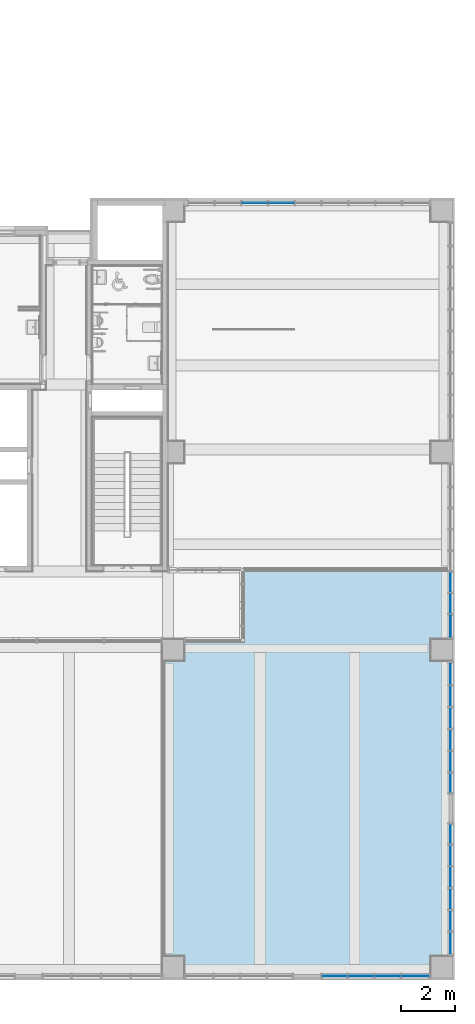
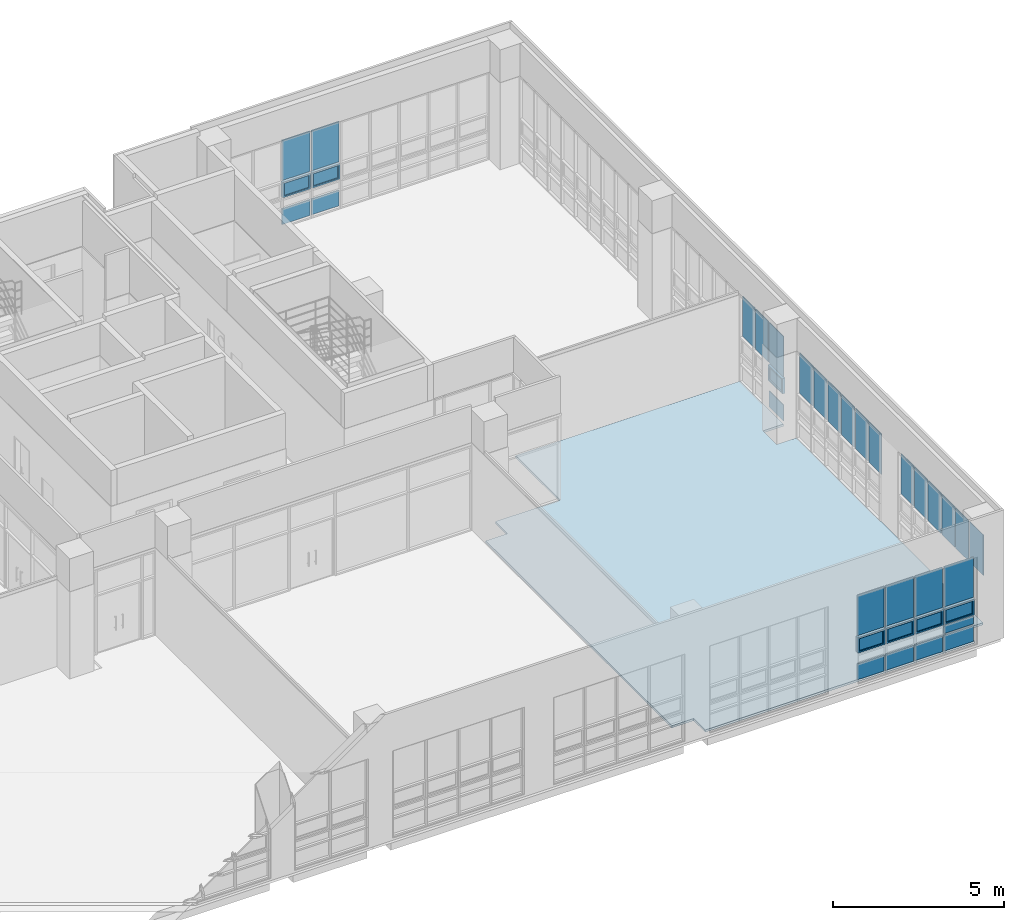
# One storey, part 36 of 74: 36 plates, 1 slab, 5 elements without a shape of their own.
"""IFC2X3 building model written with IfcOpenShell, lengths in millimetres."""

from ifc_helpers import new_model, entity, si_unit, converted_unit, derived_unit, direction, frame, origin, origin_2d_with_axis, place, context, subcontext, project, spatial, polyline, rectangle, outline, extrude, source, transform, mapped, material, material_list, layer, layer_set, layer_usage, type_object, type_shapes, element, aggregate, save


model = new_model("IFC2X3")

# Units and contexts
model_context = context("Model", 3, precision=0.01, world=origin(), true_north=direction((6.123031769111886e-17, 1.0)))
body_context = subcontext(model_context, "Body", "Model", "MODEL_VIEW")
ifc_project = project(units=[si_unit("LENGTHUNIT", "METRE", prefix="MILLI"), si_unit("AREAUNIT", "SQUARE_METRE"), si_unit("VOLUMEUNIT", "CUBIC_METRE"), converted_unit("PLANEANGLEUNIT", "DEGREE", entity("IfcRatioMeasure", 0.017453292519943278), si_unit("PLANEANGLEUNIT", "RADIAN"), dimensions=[0, 0, 0, 0, 0, 0, 0]), si_unit("MASSUNIT", "GRAM", prefix="KILO"), derived_unit("MASSDENSITYUNIT", [(si_unit("MASSUNIT", "GRAM", prefix="KILO"), 1), (si_unit("LENGTHUNIT", "METRE"), -3)]), derived_unit("MOMENTOFINERTIAUNIT", [(si_unit("LENGTHUNIT", "METRE"), 4)]), si_unit("TIMEUNIT", "SECOND"), si_unit("FREQUENCYUNIT", "HERTZ"), si_unit("THERMODYNAMICTEMPERATUREUNIT", "DEGREE_CELSIUS"), derived_unit("THERMALTRANSMITTANCEUNIT", [(si_unit("MASSUNIT", "GRAM", prefix="KILO"), 1), (si_unit("THERMODYNAMICTEMPERATUREUNIT", "KELVIN"), -1), (si_unit("TIMEUNIT", "SECOND"), -3)]), derived_unit("VOLUMETRICFLOWRATEUNIT", [(si_unit("LENGTHUNIT", "METRE"), 3), (si_unit("TIMEUNIT", "SECOND"), -1)]), derived_unit("MASSFLOWRATEUNIT", [(si_unit("MASSUNIT", "GRAM", prefix="KILO"), 1), (si_unit("TIMEUNIT", "SECOND"), -1)]), derived_unit("ROTATIONALFREQUENCYUNIT", [(si_unit("TIMEUNIT", "SECOND"), -1)]), si_unit("ELECTRICCURRENTUNIT", "AMPERE"), si_unit("ELECTRICVOLTAGEUNIT", "VOLT"), si_unit("POWERUNIT", "WATT"), si_unit("FORCEUNIT", "NEWTON", prefix="KILO"), si_unit("ILLUMINANCEUNIT", "LUX"), si_unit("LUMINOUSFLUXUNIT", "LUMEN"), si_unit("LUMINOUSINTENSITYUNIT", "CANDELA"), derived_unit("USERDEFINED", [(si_unit("MASSUNIT", "GRAM", prefix="KILO"), -1), (si_unit("LENGTHUNIT", "METRE"), -2), (si_unit("TIMEUNIT", "SECOND"), 3), (si_unit("LUMINOUSFLUXUNIT", "LUMEN"), 1)]), derived_unit("SOUNDPOWERUNIT", [(si_unit("MASSUNIT", "GRAM", prefix="KILO"), 1), (si_unit("LENGTHUNIT", "METRE"), 2), (si_unit("TIMEUNIT", "SECOND"), -3)]), derived_unit("SOUNDPRESSUREUNIT", [(si_unit("MASSUNIT", "GRAM", prefix="KILO"), 1), (si_unit("LENGTHUNIT", "METRE"), -1), (si_unit("TIMEUNIT", "SECOND"), -2)]), derived_unit("LINEARVELOCITYUNIT", [(si_unit("LENGTHUNIT", "METRE"), 1), (si_unit("TIMEUNIT", "SECOND"), -1)]), si_unit("PRESSUREUNIT", "PASCAL"), derived_unit("USERDEFINED", [(si_unit("LENGTHUNIT", "METRE"), -2), (si_unit("MASSUNIT", "GRAM", prefix="KILO"), 1), (si_unit("TIMEUNIT", "SECOND"), -2)]), derived_unit("LINEARFORCEUNIT", [(si_unit("MASSUNIT", "GRAM", prefix="KILO"), 1), (si_unit("LENGTHUNIT", "METRE"), 1), (si_unit("TIMEUNIT", "SECOND"), -2), (si_unit("LENGTHUNIT", "METRE"), -1)]), derived_unit("PLANARFORCEUNIT", [(si_unit("MASSUNIT", "GRAM", prefix="KILO"), 1), (si_unit("LENGTHUNIT", "METRE"), 1), (si_unit("TIMEUNIT", "SECOND"), -2), (si_unit("LENGTHUNIT", "METRE"), -2)])], contexts=[model_context])

# Site, building, storey
site_placement = place(None, frame((-14167.972527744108, -657.2125860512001, 0.0)))
site = spatial("IfcSite", under=ifc_project, at=site_placement, Name="Default", CompositionType="ELEMENT")
building_placement = place(site_placement, origin())
building = spatial("IfcBuilding", under=site, at=building_placement, Name="Sample Building", CompositionType="ELEMENT")
storey_placement = place(building_placement, frame((0.0, 0.0, 4800.0)))
storey = spatial("IfcBuildingStorey", under=building, at=storey_placement, Name="지상 2층", CompositionType="ELEMENT", Elevation=4800.000000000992)

# Curtain wall, plates
curtain_wall_type = type_object("IfcCurtainWallType", Name="커튼월:CW112-스테인리스 스틸 커튼월", PredefinedType="NOTDEFINED")
curtain_wall_1_placement = place(storey_placement, frame((0.0, 0.0, -4800.0)))
curtain_wall_1 = element("IfcCurtainWall", 1, at=curtain_wall_1_placement, inside=storey, type_object=curtain_wall_type, Name="커튼월:CW112-스테인리스 스틸 커튼월", ObjectType="커튼월:CW112-스테인리스 스틸 커튼월")
ifc_material_1 = material(Name="KBIMS-로이유리(코팅)")
plate_type_1 = type_object("IfcPlateType", Name="CW300-THK24.Low-e coating glass:CW300-THK24.Low-e coating glass", PredefinedType="CURTAIN_PANEL", material=ifc_material_1)
shared_shape_1 = source(origin(), body_context, "Body", "SweptSolid", [
    extrude(rectangle(XDim=731.2499999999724, YDim=24.000000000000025, at=origin_2d_with_axis()), frame((0.0, 0.0, 0.0), z_axis=(0.0, 0.0, 1.0), x_axis=(-1.0, 0.0, 0.0)), (0.0, 0.0, 1.0), 1445.0000000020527),
])
type_shapes(plate_type_1, [shared_shape_1])
plate_1_placement = place(curtain_wall_1_placement, frame((51405.46382893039, 14379.087275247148, 6505.0), z_axis=(0.0, 0.0, 1.0), x_axis=(0.0, 1.0, 0.0)))
plate_1 = element("IfcPlate", 2, at=plate_1_placement, type_object=plate_type_1, material=ifc_material_1, Name="CW300-THK24.Low-e coating glass:CW300-THK24.Low-e coating glass", ObjectType="CW300-THK24.Low-e coating glass:CW300-THK24.Low-e coating glass", context=body_context, shape_type="MappedRepresentation", body=[
    mapped(shared_shape_1, transform((0.0, 0.0, 0.0), scale=1.0)),
])
plate_2_placement = place(curtain_wall_1_placement, frame((51405.4638289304, 15160.337275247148, 6505.0), z_axis=(0.0, 0.0, 1.0), x_axis=(0.0, 1.0, 0.0)))
plate_2 = element("IfcPlate", 3, at=plate_2_placement, type_object=plate_type_1, material=ifc_material_1, Name="CW300-THK24.Low-e coating glass:CW300-THK24.Low-e coating glass", ObjectType="CW300-THK24.Low-e coating glass:CW300-THK24.Low-e coating glass", context=body_context, shape_type="MappedRepresentation", body=[
    mapped(shared_shape_1, transform((0.0, 0.0, 0.0), scale=1.0)),
])

curtain_wall_2_placement = place(storey_placement, frame((0.0, 0.0, -4800.0)))
curtain_wall_2 = element("IfcCurtainWall", 4, at=curtain_wall_2_placement, inside=storey, type_object=curtain_wall_type, Name="커튼월:CW112-스테인리스 스틸 커튼월", ObjectType="커튼월:CW112-스테인리스 스틸 커튼월")
plate_type_2 = type_object("IfcPlateType", Name="CW300-THK24.Low-e coating glass:CW300-THK24.Low-e coating glass", PredefinedType="CURTAIN_PANEL", material=ifc_material_1)
shared_shape_2 = source(origin(), body_context, "Body", "SweptSolid", [
    extrude(rectangle(XDim=937.4999999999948, YDim=24.000000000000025, at=origin_2d_with_axis()), frame((0.0, 0.0, 0.0), z_axis=(0.0, 0.0, 1.0), x_axis=(-1.0, 0.0, 0.0)), (0.0, 0.0, 1.0), 575.0000000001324),
])
type_shapes(plate_type_2, [shared_shape_2])
plate_3_placement = place(curtain_wall_2_placement, frame((48092.07230636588, 619.7122951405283, 4930.0)))
plate_3 = element("IfcPlate", 5, at=plate_3_placement, type_object=plate_type_2, material=ifc_material_1, Name="CW300-THK24.Low-e coating glass:CW300-THK24.Low-e coating glass", ObjectType="CW300-THK24.Low-e coating glass:CW300-THK24.Low-e coating glass", context=body_context, shape_type="MappedRepresentation", body=[
    mapped(shared_shape_2, transform((0.0, 0.0, 0.0), scale=1.0)),
])
plate_4_placement = place(curtain_wall_2_placement, frame((49079.57230636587, 619.7122951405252, 4930.0)))
plate_4 = element("IfcPlate", 6, at=plate_4_placement, type_object=plate_type_2, material=ifc_material_1, Name="CW300-THK24.Low-e coating glass:CW300-THK24.Low-e coating glass", ObjectType="CW300-THK24.Low-e coating glass:CW300-THK24.Low-e coating glass", context=body_context, shape_type="MappedRepresentation", body=[
    mapped(shared_shape_2, transform((0.0, 0.0, 0.0), scale=1.0)),
])
plate_type_3 = type_object("IfcPlateType", Name="CW300-THK24.Low-e coating glass:CW300-THK24.Low-e coating glass", PredefinedType="CURTAIN_PANEL", material=ifc_material_1)
shared_shape_3 = source(origin(), body_context, "Body", "SweptSolid", [
    extrude(rectangle(XDim=912.5000000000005, YDim=24.000000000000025, at=origin_2d_with_axis()), frame((0.0, 0.0, 0.0), z_axis=(0.0, 0.0, 1.0), x_axis=(-1.0, 0.0, 0.0)), (0.0, 0.0, 1.0), 575.0000000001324),
])
type_shapes(plate_type_3, [shared_shape_3])
plate_5_placement = place(curtain_wall_2_placement, frame((47117.07230636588, 619.7122951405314, 4930.0)))
plate_5 = element("IfcPlate", 7, at=plate_5_placement, type_object=plate_type_3, material=ifc_material_1, Name="CW300-THK24.Low-e coating glass:CW300-THK24.Low-e coating glass", ObjectType="CW300-THK24.Low-e coating glass:CW300-THK24.Low-e coating glass", context=body_context, shape_type="MappedRepresentation", body=[
    mapped(shared_shape_3, transform((0.0, 0.0, 0.0), scale=1.0)),
])
ifc_material_2 = material(Name="KBIMS-유리")
ifc_material_3 = material(Name="KBIMS-알루미늄")
ifc_material_list_1 = material_list([ifc_material_2, ifc_material_3])
ifc_material_list_2 = material_list([ifc_material_2, ifc_material_3])
plate_type_4 = type_object("IfcPlateType", Name="CW410-프로젝트 창:CW410-프로젝트 창 (하부개폐)", PredefinedType="CURTAIN_PANEL", material=ifc_material_list_2)
shared_shape_4 = source(origin(), body_context, "Body", "SweptSolid", [
    extrude(rectangle(XDim=837.5000000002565, YDim=23.999999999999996, at=origin_2d_with_axis()), frame((0.0, -0.04999999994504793, 50.0), z_axis=(0.0, 0.0, 1.0), x_axis=(-1.0, 0.0, 0.0)), (0.0, 0.0, 1.0), 450.00000000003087),
    extrude(outline(polyline([(-468.7499999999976, -275.0), (468.7499999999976, -275.0), (468.7499999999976, 275.0), (-468.7499999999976, 275.0), (-468.7499999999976, -275.0)]), holes=[polyline([(-418.75000000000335, -225.0), (-418.7500000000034, 225.0), (418.7500000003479, 225.0), (418.75000000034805, -225.0), (-418.75000000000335, -225.0)])]), frame((0.0, -50.04999999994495, 275.0), z_axis=(0.0, 1.0, 0.0), x_axis=(1.0, 0.0, 0.0)), (0.0, 0.0, 1.0), 99.99999999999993),
])
type_shapes(plate_type_4, [shared_shape_4])
plate_6_placement = place(curtain_wall_2_placement, frame((48092.07230636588, 619.7122951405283, 5905.0)))
plate_6 = element("IfcPlate", 8, at=plate_6_placement, type_object=plate_type_4, material=ifc_material_list_1, Name="CW410-프로젝트 창:CW410-프로젝트 창 (하부개폐)", ObjectType="CW410-프로젝트 창:CW410-프로젝트 창 (하부개폐)", context=body_context, shape_type="MappedRepresentation", body=[
    mapped(shared_shape_4, transform((0.0, 0.0, 0.0), scale=1.0)),
])
ifc_material_list_3 = material_list([ifc_material_2, ifc_material_3])
plate_7_placement = place(curtain_wall_2_placement, frame((49079.57230636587, 619.7122951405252, 5905.0)))
plate_7 = element("IfcPlate", 9, at=plate_7_placement, type_object=plate_type_4, material=ifc_material_list_3, Name="CW410-프로젝트 창:CW410-프로젝트 창 (하부개폐)", ObjectType="CW410-프로젝트 창:CW410-프로젝트 창 (하부개폐)", context=body_context, shape_type="MappedRepresentation", body=[
    mapped(shared_shape_4, transform((0.0, 0.0, 0.0), scale=1.0)),
])
ifc_material_list_4 = material_list([ifc_material_2, ifc_material_3])
ifc_material_list_5 = material_list([ifc_material_2, ifc_material_3])
plate_type_5 = type_object("IfcPlateType", Name="CW410-프로젝트 창:CW410-프로젝트 창 (하부개폐)", PredefinedType="CURTAIN_PANEL", material=ifc_material_list_5)
shared_shape_5 = source(origin(), body_context, "Body", "SweptSolid", [
    extrude(rectangle(XDim=812.5000000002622, YDim=23.999999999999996, at=origin_2d_with_axis()), frame((0.0, -0.04999999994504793, 50.0), z_axis=(0.0, 0.0, 1.0), x_axis=(-1.0, 0.0, 0.0)), (0.0, 0.0, 1.0), 450.00000000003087),
    extrude(outline(polyline([(-456.25000000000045, -275.0), (456.25000000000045, -275.0), (456.25000000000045, 275.0), (-456.25000000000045, 275.0), (-456.25000000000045, -275.0)]), holes=[polyline([(-406.2500000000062, -225.0), (-406.25000000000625, 225.0), (406.2500000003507, 225.0), (406.2500000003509, -225.0), (-406.2500000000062, -225.0)])]), frame((0.0, -50.04999999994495, 275.0), z_axis=(0.0, 1.0, 0.0), x_axis=(1.0, 0.0, 0.0)), (0.0, 0.0, 1.0), 99.99999999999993),
])
type_shapes(plate_type_5, [shared_shape_5])
plate_8_placement = place(curtain_wall_2_placement, frame((47117.07230636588, 619.7122951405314, 5905.0)))
plate_8 = element("IfcPlate", 10, at=plate_8_placement, type_object=plate_type_5, material=ifc_material_list_4, Name="CW410-프로젝트 창:CW410-프로젝트 창 (하부개폐)", ObjectType="CW410-프로젝트 창:CW410-프로젝트 창 (하부개폐)", context=body_context, shape_type="MappedRepresentation", body=[
    mapped(shared_shape_5, transform((0.0, 0.0, 0.0), scale=1.0)),
])
plate_type_6 = type_object("IfcPlateType", Name="CW300-THK24.Low-e coating glass:CW300-THK24.Low-e coating glass", PredefinedType="CURTAIN_PANEL", material=ifc_material_1)
shared_shape_6 = source(origin(), body_context, "Body", "SweptSolid", [
    extrude(rectangle(XDim=937.4999999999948, YDim=24.000000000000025, at=origin_2d_with_axis()), frame((0.0, 0.0, 0.0), z_axis=(0.0, 0.0, 1.0), x_axis=(-1.0, 0.0, 0.0)), (0.0, 0.0, 1.0), 1445.0000000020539),
])
type_shapes(plate_type_6, [shared_shape_6])
plate_9_placement = place(curtain_wall_2_placement, frame((48092.07230636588, 619.7122951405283, 6505.0)))
plate_9 = element("IfcPlate", 11, at=plate_9_placement, type_object=plate_type_6, material=ifc_material_1, Name="CW300-THK24.Low-e coating glass:CW300-THK24.Low-e coating glass", ObjectType="CW300-THK24.Low-e coating glass:CW300-THK24.Low-e coating glass", context=body_context, shape_type="MappedRepresentation", body=[
    mapped(shared_shape_6, transform((0.0, 0.0, 0.0), scale=1.0)),
])
plate_10_placement = place(curtain_wall_2_placement, frame((49079.57230636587, 619.7122951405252, 6505.0)))
plate_10 = element("IfcPlate", 12, at=plate_10_placement, type_object=plate_type_6, material=ifc_material_1, Name="CW300-THK24.Low-e coating glass:CW300-THK24.Low-e coating glass", ObjectType="CW300-THK24.Low-e coating glass:CW300-THK24.Low-e coating glass", context=body_context, shape_type="MappedRepresentation", body=[
    mapped(shared_shape_6, transform((0.0, 0.0, 0.0), scale=1.0)),
])
plate_type_7 = type_object("IfcPlateType", Name="CW300-THK24.Low-e coating glass:CW300-THK24.Low-e coating glass", PredefinedType="CURTAIN_PANEL", material=ifc_material_1)
shared_shape_7 = source(origin(), body_context, "Body", "SweptSolid", [
    extrude(rectangle(XDim=912.5000000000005, YDim=24.000000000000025, at=origin_2d_with_axis()), frame((0.0, 0.0, 0.0), z_axis=(0.0, 0.0, 1.0), x_axis=(-1.0, 0.0, 0.0)), (0.0, 0.0, 1.0), 1445.0000000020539),
])
type_shapes(plate_type_7, [shared_shape_7])
plate_11_placement = place(curtain_wall_2_placement, frame((47117.07230636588, 619.7122951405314, 6505.0)))
plate_11 = element("IfcPlate", 13, at=plate_11_placement, type_object=plate_type_7, material=ifc_material_1, Name="CW300-THK24.Low-e coating glass:CW300-THK24.Low-e coating glass", ObjectType="CW300-THK24.Low-e coating glass:CW300-THK24.Low-e coating glass", context=body_context, shape_type="MappedRepresentation", body=[
    mapped(shared_shape_7, transform((0.0, 0.0, 0.0), scale=1.0)),
])
plate_type_8 = type_object("IfcPlateType", Name="CW300-THK24.Low-e coating glass:CW300-THK24.Low-e coating glass", PredefinedType="CURTAIN_PANEL", material=ifc_material_1)
shared_shape_8 = source(origin(), body_context, "Body", "SweptSolid", [
    extrude(rectangle(XDim=1001.6588810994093, YDim=24.000000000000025, at=origin_2d_with_axis()), frame((0.0, 0.0, 0.0), z_axis=(0.0, 0.0, 1.0), x_axis=(-1.0, 0.0, 0.0)), (0.0, 0.0, 1.0), 575.0000000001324),
])
type_shapes(plate_type_8, [shared_shape_8])
plate_12_placement = place(curtain_wall_2_placement, frame((50099.15174691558, 619.7122951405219, 4930.0)))
plate_12 = element("IfcPlate", 14, at=plate_12_placement, type_object=plate_type_8, material=ifc_material_1, Name="CW300-THK24.Low-e coating glass:CW300-THK24.Low-e coating glass", ObjectType="CW300-THK24.Low-e coating glass:CW300-THK24.Low-e coating glass", context=body_context, shape_type="MappedRepresentation", body=[
    mapped(shared_shape_8, transform((0.0, 0.0, 0.0), scale=1.0)),
])
plate_type_9 = type_object("IfcPlateType", Name="CW300-THK24.Low-e coating glass:CW300-THK24.Low-e coating glass", PredefinedType="CURTAIN_PANEL", material=ifc_material_1)
shared_shape_9 = source(origin(), body_context, "Body", "SweptSolid", [
    extrude(rectangle(XDim=1001.6588810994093, YDim=24.000000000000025, at=origin_2d_with_axis()), frame((0.0, 0.0, 0.0), z_axis=(0.0, 0.0, 1.0), x_axis=(-1.0, 0.0, 0.0)), (0.0, 0.0, 1.0), 299.9999999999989),
])
type_shapes(plate_type_9, [shared_shape_9])
plate_13_placement = place(curtain_wall_2_placement, frame((50099.15174691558, 619.7122951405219, 5555.0)))
plate_13 = element("IfcPlate", 15, at=plate_13_placement, type_object=plate_type_9, material=ifc_material_1, Name="CW300-THK24.Low-e coating glass:CW300-THK24.Low-e coating glass", ObjectType="CW300-THK24.Low-e coating glass:CW300-THK24.Low-e coating glass", context=body_context, shape_type="MappedRepresentation", body=[
    mapped(shared_shape_9, transform((0.0, 0.0, 0.0), scale=1.0)),
])
ifc_material_list_6 = material_list([ifc_material_2, ifc_material_3])
ifc_material_list_7 = material_list([ifc_material_2, ifc_material_3])
plate_type_10 = type_object("IfcPlateType", Name="CW410-프로젝트 창:CW410-프로젝트 창 (하부개폐)", PredefinedType="CURTAIN_PANEL", material=ifc_material_list_7)
shared_shape_10 = source(origin(), body_context, "Body", "SweptSolid", [
    extrude(rectangle(XDim=901.658881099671, YDim=23.999999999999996, at=origin_2d_with_axis()), frame((0.0, -0.04999999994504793, 50.0), z_axis=(0.0, 0.0, 1.0), x_axis=(-1.0, 0.0, 0.0)), (0.0, 0.0, 1.0), 450.0000000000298),
    extrude(outline(polyline([(-500.8294405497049, -275.0), (500.8294405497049, -275.0), (500.8294405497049, 275.0), (-500.8294405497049, 275.0), (-500.8294405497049, -275.0)]), holes=[polyline([(-450.8294405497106, -225.0), (-450.8294405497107, 225.0), (450.8294405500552, 225.0), (450.8294405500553, -225.0), (-450.8294405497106, -225.0)])]), frame((0.0, -50.04999999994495, 275.0), z_axis=(0.0, 1.0, 0.0), x_axis=(1.0, 0.0, 0.0)), (0.0, 0.0, 1.0), 99.99999999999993),
])
type_shapes(plate_type_10, [shared_shape_10])
plate_14_placement = place(curtain_wall_2_placement, frame((50099.15174691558, 619.7122951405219, 5905.0)))
plate_14 = element("IfcPlate", 16, at=plate_14_placement, type_object=plate_type_10, material=ifc_material_list_6, Name="CW410-프로젝트 창:CW410-프로젝트 창 (하부개폐)", ObjectType="CW410-프로젝트 창:CW410-프로젝트 창 (하부개폐)", context=body_context, shape_type="MappedRepresentation", body=[
    mapped(shared_shape_10, transform((0.0, 0.0, 0.0), scale=1.0)),
])
plate_type_11 = type_object("IfcPlateType", Name="CW300-THK24.Low-e coating glass:CW300-THK24.Low-e coating glass", PredefinedType="CURTAIN_PANEL", material=ifc_material_1)
shared_shape_11 = source(origin(), body_context, "Body", "SweptSolid", [
    extrude(rectangle(XDim=1001.6588810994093, YDim=24.000000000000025, at=origin_2d_with_axis()), frame((0.0, 0.0, 0.0), z_axis=(0.0, 0.0, 1.0), x_axis=(-1.0, 0.0, 0.0)), (0.0, 0.0, 1.0), 1445.0000000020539),
])
type_shapes(plate_type_11, [shared_shape_11])
plate_15_placement = place(curtain_wall_2_placement, frame((50099.15174691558, 619.7122951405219, 6505.0)))
plate_15 = element("IfcPlate", 17, at=plate_15_placement, type_object=plate_type_11, material=ifc_material_1, Name="CW300-THK24.Low-e coating glass:CW300-THK24.Low-e coating glass", ObjectType="CW300-THK24.Low-e coating glass:CW300-THK24.Low-e coating glass", context=body_context, shape_type="MappedRepresentation", body=[
    mapped(shared_shape_11, transform((0.0, 0.0, 0.0), scale=1.0)),
])
aggregate(curtain_wall_2, [plate_5, plate_3, plate_4, plate_12, plate_13, plate_8, plate_6, plate_7, plate_14, plate_11, plate_9, plate_10, plate_15])

curtain_wall_3_placement = place(storey_placement, frame((0.0, 0.0, -4800.0)))
curtain_wall_3 = element("IfcCurtainWall", 18, at=curtain_wall_3_placement, inside=storey, type_object=curtain_wall_type, Name="커튼월:CW112-스테인리스 스틸 커튼월", ObjectType="커튼월:CW112-스테인리스 스틸 커튼월")
plate_type_12 = type_object("IfcPlateType", Name="CW300-THK24.Low-e coating glass:CW300-THK24.Low-e coating glass", PredefinedType="CURTAIN_PANEL", material=ifc_material_1)
shared_shape_12 = source(origin(), body_context, "Body", "SweptSolid", [
    extrude(rectangle(XDim=811.1669447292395, YDim=24.000000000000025, at=origin_2d_with_axis()), frame((0.0, 0.0, 0.0), z_axis=(0.0, 0.0, 1.0), x_axis=(-1.0, 0.0, 0.0)), (0.0, 0.0, 1.0), 1445.0000000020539),
])
type_shapes(plate_type_12, [shared_shape_12])
plate_16_placement = place(curtain_wall_3_placement, frame((51405.46382893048, 1830.7957803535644, 6505.0), z_axis=(0.0, 0.0, 1.0), x_axis=(0.0, 1.0, 0.0)))
plate_16 = element("IfcPlate", 19, at=plate_16_placement, type_object=plate_type_12, material=ifc_material_1, Name="CW300-THK24.Low-e coating glass:CW300-THK24.Low-e coating glass", ObjectType="CW300-THK24.Low-e coating glass:CW300-THK24.Low-e coating glass", context=body_context, shape_type="MappedRepresentation", body=[
    mapped(shared_shape_12, transform((0.0, 0.0, 0.0), scale=1.0)),
])
plate_type_13 = type_object("IfcPlateType", Name="CW300-THK24.Low-e coating glass:CW300-THK24.Low-e coating glass", PredefinedType="CURTAIN_PANEL", material=ifc_material_1)
shared_shape_13 = source(origin(), body_context, "Body", "SweptSolid", [
    extrude(rectangle(XDim=754.1666666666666, YDim=24.000000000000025, at=origin_2d_with_axis()), frame((0.0, 0.0, 0.0), z_axis=(0.0, 0.0, 1.0), x_axis=(-1.0, 0.0, 0.0)), (0.0, 0.0, 1.0), 1445.0000000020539),
])
type_shapes(plate_type_13, [shared_shape_13])
plate_17_placement = place(curtain_wall_3_placement, frame((51405.46382893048, 2663.462586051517, 6505.0), z_axis=(0.0, 0.0, 1.0), x_axis=(0.0, 1.0, 0.0)))
plate_17 = element("IfcPlate", 20, at=plate_17_placement, type_object=plate_type_13, material=ifc_material_1, Name="CW300-THK24.Low-e coating glass:CW300-THK24.Low-e coating glass", ObjectType="CW300-THK24.Low-e coating glass:CW300-THK24.Low-e coating glass", context=body_context, shape_type="MappedRepresentation", body=[
    mapped(shared_shape_13, transform((0.0, 0.0, 0.0), scale=1.0)),
])
plate_18_placement = place(curtain_wall_3_placement, frame((51405.46382893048, 3467.629252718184, 6505.0), z_axis=(0.0, 0.0, 1.0), x_axis=(0.0, 1.0, 0.0)))
plate_18 = element("IfcPlate", 21, at=plate_18_placement, type_object=plate_type_13, material=ifc_material_1, Name="CW300-THK24.Low-e coating glass:CW300-THK24.Low-e coating glass", ObjectType="CW300-THK24.Low-e coating glass:CW300-THK24.Low-e coating glass", context=body_context, shape_type="MappedRepresentation", body=[
    mapped(shared_shape_13, transform((0.0, 0.0, 0.0), scale=1.0)),
])
plate_19_placement = place(curtain_wall_3_placement, frame((51405.463828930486, 4271.795919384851, 6505.0), z_axis=(0.0, 0.0, 1.0), x_axis=(0.0, 1.0, 0.0)))
plate_19 = element("IfcPlate", 22, at=plate_19_placement, type_object=plate_type_13, material=ifc_material_1, Name="CW300-THK24.Low-e coating glass:CW300-THK24.Low-e coating glass", ObjectType="CW300-THK24.Low-e coating glass:CW300-THK24.Low-e coating glass", context=body_context, shape_type="MappedRepresentation", body=[
    mapped(shared_shape_13, transform((0.0, 0.0, 0.0), scale=1.0)),
])
plate_20_placement = place(curtain_wall_3_placement, frame((51405.463828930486, 5075.962586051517, 6505.0), z_axis=(0.0, 0.0, 1.0), x_axis=(0.0, 1.0, 0.0)))
plate_20 = element("IfcPlate", 23, at=plate_20_placement, type_object=plate_type_13, material=ifc_material_1, Name="CW300-THK24.Low-e coating glass:CW300-THK24.Low-e coating glass", ObjectType="CW300-THK24.Low-e coating glass:CW300-THK24.Low-e coating glass", context=body_context, shape_type="MappedRepresentation", body=[
    mapped(shared_shape_13, transform((0.0, 0.0, 0.0), scale=1.0)),
])

curtain_wall_4_placement = place(storey_placement, frame((0.0, 0.0, -4800.0)))
curtain_wall_4 = element("IfcCurtainWall", 24, at=curtain_wall_4_placement, inside=storey, type_object=curtain_wall_type, Name="커튼월:CW112-스테인리스 스틸 커튼월", ObjectType="커튼월:CW112-스테인리스 스틸 커튼월")
plate_21_placement = place(curtain_wall_4_placement, frame((51405.46382893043, 8538.462586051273, 6505.0), z_axis=(0.0, 0.0, 1.0), x_axis=(0.0, 1.0, 0.0)))
plate_21 = element("IfcPlate", 25, at=plate_21_placement, type_object=plate_type_13, material=ifc_material_1, Name="CW300-THK24.Low-e coating glass:CW300-THK24.Low-e coating glass", ObjectType="CW300-THK24.Low-e coating glass:CW300-THK24.Low-e coating glass", context=body_context, shape_type="MappedRepresentation", body=[
    mapped(shared_shape_13, transform((0.0, 0.0, 0.0), scale=1.0)),
])
plate_22_placement = place(curtain_wall_4_placement, frame((51405.46382893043, 9342.62925271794, 6505.0), z_axis=(0.0, 0.0, 1.0), x_axis=(0.0, 1.0, 0.0)))
plate_22 = element("IfcPlate", 26, at=plate_22_placement, type_object=plate_type_13, material=ifc_material_1, Name="CW300-THK24.Low-e coating glass:CW300-THK24.Low-e coating glass", ObjectType="CW300-THK24.Low-e coating glass:CW300-THK24.Low-e coating glass", context=body_context, shape_type="MappedRepresentation", body=[
    mapped(shared_shape_13, transform((0.0, 0.0, 0.0), scale=1.0)),
])
plate_23_placement = place(curtain_wall_4_placement, frame((51405.463828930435, 10146.795919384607, 6505.0), z_axis=(0.0, 0.0, 1.0), x_axis=(0.0, 1.0, 0.0)))
plate_23 = element("IfcPlate", 27, at=plate_23_placement, type_object=plate_type_13, material=ifc_material_1, Name="CW300-THK24.Low-e coating glass:CW300-THK24.Low-e coating glass", ObjectType="CW300-THK24.Low-e coating glass:CW300-THK24.Low-e coating glass", context=body_context, shape_type="MappedRepresentation", body=[
    mapped(shared_shape_13, transform((0.0, 0.0, 0.0), scale=1.0)),
])
plate_24_placement = place(curtain_wall_4_placement, frame((51405.463828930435, 10950.962586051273, 6505.0), z_axis=(0.0, 0.0, 1.0), x_axis=(0.0, 1.0, 0.0)))
plate_24 = element("IfcPlate", 28, at=plate_24_placement, type_object=plate_type_13, material=ifc_material_1, Name="CW300-THK24.Low-e coating glass:CW300-THK24.Low-e coating glass", ObjectType="CW300-THK24.Low-e coating glass:CW300-THK24.Low-e coating glass", context=body_context, shape_type="MappedRepresentation", body=[
    mapped(shared_shape_13, transform((0.0, 0.0, 0.0), scale=1.0)),
])

# Plate
plate_type_14 = type_object("IfcPlateType", Name="CW300-THK24.Low-e coating glass:CW300-THK24.Low-e coating glass", PredefinedType="CURTAIN_PANEL", material=ifc_material_1)
shared_shape_14 = source(origin(), body_context, "Body", "SweptSolid", [
    extrude(rectangle(XDim=729.1666666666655, YDim=24.000000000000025, at=origin_2d_with_axis()), frame((0.0, 0.0, 0.0), z_axis=(0.0, 0.0, 1.0), x_axis=(-1.0, 0.0, 0.0)), (0.0, 0.0, 1.0), 1445.0000000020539),
])
type_shapes(plate_type_14, [shared_shape_14])
plate_25_placement = place(curtain_wall_3_placement, frame((51405.463828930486, 5867.629252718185, 6505.0), z_axis=(0.0, 0.0, 1.0), x_axis=(0.0, 1.0, 0.0)))
plate_25 = element("IfcPlate", 29, at=plate_25_placement, type_object=plate_type_14, material=ifc_material_1, Name="CW300-THK24.Low-e coating glass:CW300-THK24.Low-e coating glass", ObjectType="CW300-THK24.Low-e coating glass:CW300-THK24.Low-e coating glass", context=body_context, shape_type="MappedRepresentation", body=[
    mapped(shared_shape_14, transform((0.0, 0.0, 0.0), scale=1.0)),
])

aggregate(curtain_wall_3, [plate_16, plate_17, plate_18, plate_19, plate_20, plate_25])

plate_26_placement = place(curtain_wall_4_placement, frame((51405.46382893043, 7746.795919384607, 6505.0), z_axis=(0.0, 0.0, 1.0), x_axis=(0.0, 1.0, 0.0)))
plate_26 = element("IfcPlate", 30, at=plate_26_placement, type_object=plate_type_14, material=ifc_material_1, Name="CW300-THK24.Low-e coating glass:CW300-THK24.Low-e coating glass", ObjectType="CW300-THK24.Low-e coating glass:CW300-THK24.Low-e coating glass", context=body_context, shape_type="MappedRepresentation", body=[
    mapped(shared_shape_14, transform((0.0, 0.0, 0.0), scale=1.0)),
])

plate_type_15 = type_object("IfcPlateType", Name="CW300-THK24.Low-e coating glass:CW300-THK24.Low-e coating glass", PredefinedType="CURTAIN_PANEL", material=ifc_material_1)
shared_shape_15 = source(origin(), body_context, "Body", "SweptSolid", [
    extrude(rectangle(XDim=811.1668105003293, YDim=24.000000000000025, at=origin_2d_with_axis()), frame((0.0, 0.0, 0.0), z_axis=(0.0, 0.0, 1.0), x_axis=(-1.0, 0.0, 0.0)), (0.0, 0.0, 1.0), 1445.0000000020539),
])
type_shapes(plate_type_15, [shared_shape_15])
plate_27_placement = place(curtain_wall_4_placement, frame((51405.463828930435, 11783.629324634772, 6505.0), z_axis=(0.0, 0.0, 1.0), x_axis=(0.0, 1.0, 0.0)))
plate_27 = element("IfcPlate", 31, at=plate_27_placement, type_object=plate_type_15, material=ifc_material_1, Name="CW300-THK24.Low-e coating glass:CW300-THK24.Low-e coating glass", ObjectType="CW300-THK24.Low-e coating glass:CW300-THK24.Low-e coating glass", context=body_context, shape_type="MappedRepresentation", body=[
    mapped(shared_shape_15, transform((0.0, 0.0, 0.0), scale=1.0)),
])

aggregate(curtain_wall_4, [plate_26, plate_21, plate_22, plate_23, plate_24, plate_27])

plate_type_16 = type_object("IfcPlateType", Name="CW300-THK24.Low-e coating glass:CW300-THK24.Low-e coating glass", PredefinedType="CURTAIN_PANEL", material=ifc_material_1)
shared_shape_16 = source(origin(), body_context, "Body", "SweptSolid", [
    extrude(rectangle(XDim=838.2495453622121, YDim=24.000000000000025, at=origin_2d_with_axis()), frame((0.0, 0.0, 0.0), z_axis=(0.0, 0.0, 1.0), x_axis=(-1.0, 0.0, 0.0)), (0.0, 0.0, 1.0), 575.0000000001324),
])
type_shapes(plate_type_16, [shared_shape_16])
plate_28_placement = place(curtain_wall_1_placement, frame((51405.46382893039, 13544.33750256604, 4930.0), z_axis=(0.0, 0.0, 1.0), x_axis=(0.0, 1.0, 0.0)))
plate_28 = element("IfcPlate", 32, at=plate_28_placement, type_object=plate_type_16, material=ifc_material_1, Name="CW300-THK24.Low-e coating glass:CW300-THK24.Low-e coating glass", ObjectType="CW300-THK24.Low-e coating glass:CW300-THK24.Low-e coating glass", context=body_context, shape_type="MappedRepresentation", body=[
    mapped(shared_shape_16, transform((0.0, 0.0, 0.0), scale=1.0)),
])

ifc_material_list_8 = material_list([ifc_material_2, ifc_material_3])
ifc_material_list_9 = material_list([ifc_material_2, ifc_material_3])
plate_type_17 = type_object("IfcPlateType", Name="CW410-프로젝트 창:CW410-프로젝트 창 (하부개폐)", PredefinedType="CURTAIN_PANEL", material=ifc_material_list_9)
shared_shape_17 = source(origin(), body_context, "Body", "SweptSolid", [
    extrude(rectangle(XDim=738.2495453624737, YDim=23.999999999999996, at=origin_2d_with_axis()), frame((0.0, -0.04999999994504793, 50.0), z_axis=(0.0, 0.0, 1.0), x_axis=(-1.0, 0.0, 0.0)), (0.0, 0.0, 1.0), 450.00000000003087),
    extrude(outline(polyline([(-419.12477268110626, -275.0), (419.12477268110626, -275.0), (419.12477268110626, 275.0), (-419.12477268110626, 275.0), (-419.12477268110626, -275.0)]), holes=[polyline([(-369.124772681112, -225.0), (-369.12477268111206, 225.0), (369.12477268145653, 225.0), (369.1247726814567, -225.0), (-369.124772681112, -225.0)])]), frame((0.0, -50.04999999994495, 275.0), z_axis=(0.0, 1.0, 0.0), x_axis=(1.0, 0.0, 0.0)), (0.0, 0.0, 1.0), 99.99999999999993),
])
type_shapes(plate_type_17, [shared_shape_17])
plate_29_placement = place(curtain_wall_1_placement, frame((51405.46382893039, 13544.33750256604, 5905.0), z_axis=(0.0, 0.0, 1.0), x_axis=(0.0, 1.0, 0.0)))
plate_29 = element("IfcPlate", 33, at=plate_29_placement, type_object=plate_type_17, material=ifc_material_list_8, Name="CW410-프로젝트 창:CW410-프로젝트 창 (하부개폐)", ObjectType="CW410-프로젝트 창:CW410-프로젝트 창 (하부개폐)", context=body_context, shape_type="MappedRepresentation", body=[
    mapped(shared_shape_17, transform((0.0, 0.0, 0.0), scale=1.0)),
])

plate_type_18 = type_object("IfcPlateType", Name="CW300-THK24.Low-e coating glass:CW300-THK24.Low-e coating glass", PredefinedType="CURTAIN_PANEL", material=ifc_material_1)
shared_shape_18 = source(origin(), body_context, "Body", "SweptSolid", [
    extrude(rectangle(XDim=838.2495453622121, YDim=24.000000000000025, at=origin_2d_with_axis()), frame((0.0, 0.0, 0.0), z_axis=(0.0, 0.0, 1.0), x_axis=(-1.0, 0.0, 0.0)), (0.0, 0.0, 1.0), 1445.0000000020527),
])
type_shapes(plate_type_18, [shared_shape_18])
plate_30_placement = place(curtain_wall_1_placement, frame((51405.46382893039, 13544.33750256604, 6505.0), z_axis=(0.0, 0.0, 1.0), x_axis=(0.0, 1.0, 0.0)))
plate_30 = element("IfcPlate", 34, at=plate_30_placement, type_object=plate_type_18, material=ifc_material_1, Name="CW300-THK24.Low-e coating glass:CW300-THK24.Low-e coating glass", ObjectType="CW300-THK24.Low-e coating glass:CW300-THK24.Low-e coating glass", context=body_context, shape_type="MappedRepresentation", body=[
    mapped(shared_shape_18, transform((0.0, 0.0, 0.0), scale=1.0)),
])

aggregate(curtain_wall_1, [plate_28, plate_29, plate_30, plate_1, plate_2])

# Curtain wall, plates
curtain_wall_5_placement = place(storey_placement, frame((0.0, 0.0, -4800.0)))
curtain_wall_5 = element("IfcCurtainWall", 35, at=curtain_wall_5_placement, inside=storey, type_object=curtain_wall_type, Name="커튼월:CW112-스테인리스 스틸 커튼월", ObjectType="커튼월:CW112-스테인리스 스틸 커튼월")
plate_type_19 = type_object("IfcPlateType", Name="CW300-THK24.Low-e coating glass:CW300-THK24.Low-e coating glass", PredefinedType="CURTAIN_PANEL", material=ifc_material_1)
shared_shape_19 = source(origin(), body_context, "Body", "SweptSolid", [
    extrude(rectangle(XDim=938.8888888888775, YDim=24.000000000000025, at=origin_2d_with_axis()), frame((0.0, 0.0, 0.0), z_axis=(0.0, 0.0, 1.0), x_axis=(-1.0, 0.0, 0.0)), (0.0, 0.0, 1.0), 575.0000000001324),
])
type_shapes(plate_type_19, [shared_shape_19])
plate_31_placement = place(curtain_wall_5_placement, frame((45158.657769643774, 29157.212295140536, 4930.0), z_axis=(0.0, 0.0, 1.0), x_axis=(-1.0, 0.0, 0.0)))
plate_31 = element("IfcPlate", 36, at=plate_31_placement, type_object=plate_type_19, material=ifc_material_1, Name="CW300-THK24.Low-e coating glass:CW300-THK24.Low-e coating glass", ObjectType="CW300-THK24.Low-e coating glass:CW300-THK24.Low-e coating glass", context=body_context, shape_type="MappedRepresentation", body=[
    mapped(shared_shape_19, transform((0.0, 0.0, 0.0), scale=1.0)),
])
plate_32_placement = place(curtain_wall_5_placement, frame((44169.76888075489, 29157.212295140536, 4930.0), z_axis=(0.0, 0.0, 1.0), x_axis=(-1.0, 0.0, 0.0)))
plate_32 = element("IfcPlate", 37, at=plate_32_placement, type_object=plate_type_19, material=ifc_material_1, Name="CW300-THK24.Low-e coating glass:CW300-THK24.Low-e coating glass", ObjectType="CW300-THK24.Low-e coating glass:CW300-THK24.Low-e coating glass", context=body_context, shape_type="MappedRepresentation", body=[
    mapped(shared_shape_19, transform((0.0, 0.0, 0.0), scale=1.0)),
])
ifc_material_list_10 = material_list([ifc_material_2, ifc_material_3])
ifc_material_list_11 = material_list([ifc_material_2, ifc_material_3])
plate_type_20 = type_object("IfcPlateType", Name="CW410-프로젝트 창:CW410-프로젝트 창 (하부개폐)", PredefinedType="CURTAIN_PANEL", material=ifc_material_list_11)
shared_shape_20 = source(origin(), body_context, "Body", "SweptSolid", [
    extrude(rectangle(XDim=838.8888888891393, YDim=23.999999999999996, at=origin_2d_with_axis()), frame((0.0, -0.04999999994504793, 50.0), z_axis=(0.0, 0.0, 1.0), x_axis=(-1.0, 0.0, 0.0)), (0.0, 0.0, 1.0), 450.00000000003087),
    extrude(outline(polyline([(-469.444444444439, -275.0), (469.444444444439, -275.0), (469.444444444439, 275.0), (-469.444444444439, 275.0), (-469.444444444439, -275.0)]), holes=[polyline([(-419.44444444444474, -225.0), (-419.4444444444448, 225.0), (419.44444444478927, 225.0), (419.44444444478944, -225.0), (-419.44444444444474, -225.0)])]), frame((0.0, -50.04999999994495, 275.0), z_axis=(0.0, 1.0, 0.0), x_axis=(1.0, 0.0, 0.0)), (0.0, 0.0, 1.0), 99.99999999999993),
])
type_shapes(plate_type_20, [shared_shape_20])
plate_33_placement = place(curtain_wall_5_placement, frame((45158.657769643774, 29157.212295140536, 5905.0), z_axis=(0.0, 0.0, 1.0), x_axis=(-1.0, 0.0, 0.0)))
plate_33 = element("IfcPlate", 38, at=plate_33_placement, type_object=plate_type_20, material=ifc_material_list_10, Name="CW410-프로젝트 창:CW410-프로젝트 창 (하부개폐)", ObjectType="CW410-프로젝트 창:CW410-프로젝트 창 (하부개폐)", context=body_context, shape_type="MappedRepresentation", body=[
    mapped(shared_shape_20, transform((0.0, 0.0, 0.0), scale=1.0)),
])
ifc_material_list_12 = material_list([ifc_material_2, ifc_material_3])
plate_34_placement = place(curtain_wall_5_placement, frame((44169.76888075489, 29157.212295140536, 5905.0), z_axis=(0.0, 0.0, 1.0), x_axis=(-1.0, 0.0, 0.0)))
plate_34 = element("IfcPlate", 39, at=plate_34_placement, type_object=plate_type_20, material=ifc_material_list_12, Name="CW410-프로젝트 창:CW410-프로젝트 창 (하부개폐)", ObjectType="CW410-프로젝트 창:CW410-프로젝트 창 (하부개폐)", context=body_context, shape_type="MappedRepresentation", body=[
    mapped(shared_shape_20, transform((0.0, 0.0, 0.0), scale=1.0)),
])
plate_type_21 = type_object("IfcPlateType", Name="CW300-THK24.Low-e coating glass:CW300-THK24.Low-e coating glass", PredefinedType="CURTAIN_PANEL", material=ifc_material_1)
shared_shape_21 = source(origin(), body_context, "Body", "SweptSolid", [
    extrude(rectangle(XDim=938.8888888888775, YDim=24.000000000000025, at=origin_2d_with_axis()), frame((0.0, 0.0, 0.0), z_axis=(0.0, 0.0, 1.0), x_axis=(-1.0, 0.0, 0.0)), (0.0, 0.0, 1.0), 1445.0000000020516),
])
type_shapes(plate_type_21, [shared_shape_21])
plate_35_placement = place(curtain_wall_5_placement, frame((45158.657769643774, 29157.212295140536, 6505.0), z_axis=(0.0, 0.0, 1.0), x_axis=(-1.0, 0.0, 0.0)))
plate_35 = element("IfcPlate", 40, at=plate_35_placement, type_object=plate_type_21, material=ifc_material_1, Name="CW300-THK24.Low-e coating glass:CW300-THK24.Low-e coating glass", ObjectType="CW300-THK24.Low-e coating glass:CW300-THK24.Low-e coating glass", context=body_context, shape_type="MappedRepresentation", body=[
    mapped(shared_shape_21, transform((0.0, 0.0, 0.0), scale=1.0)),
])
plate_36_placement = place(curtain_wall_5_placement, frame((44169.76888075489, 29157.212295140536, 6505.0), z_axis=(0.0, 0.0, 1.0), x_axis=(-1.0, 0.0, 0.0)))
plate_36 = element("IfcPlate", 41, at=plate_36_placement, type_object=plate_type_21, material=ifc_material_1, Name="CW300-THK24.Low-e coating glass:CW300-THK24.Low-e coating glass", ObjectType="CW300-THK24.Low-e coating glass:CW300-THK24.Low-e coating glass", context=body_context, shape_type="MappedRepresentation", body=[
    mapped(shared_shape_21, transform((0.0, 0.0, 0.0), scale=1.0)),
])
aggregate(curtain_wall_5, [plate_31, plate_32, plate_33, plate_34, plate_35, plate_36])

# Slab
ifc_material_4 = material(Name="SL341-테라조 바닥 (바탕48mm, 마감32mm)")
ifc_layer = layer(ifc_material_4, 80.0)
ifc_layer_set = layer_set([ifc_layer], Name="바닥:A1-14-06B-테라조타일 (80mm)")
ifc_layer_usage = layer_usage(ifc_layer_set, "AXIS3", "POSITIVE", 0.0)
slab_type = type_object("IfcSlabType", Name="바닥:A1-14-06B-테라조타일 (80mm)", PredefinedType="FLOOR", material=ifc_layer_set)
slab_placement = place(storey_placement, origin())
element("IfcSlab", 42, at=slab_placement, inside=storey, type_object=slab_type, material=ifc_layer_usage, Name="바닥:A1-14-06B-테라조타일 (80mm)", ObjectType="바닥:A1-14-06B-테라조타일 (80mm)", PredefinedType="FLOOR", context=body_context, shape_type="SweptSolid", body=[
    extrude(outline(polyline([(-7333.4314655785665, -5640.014101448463), (3566.568956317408, -5640.014101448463), (3566.5689563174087, -4902.4967520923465), (4276.5515267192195, -4902.4967520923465), (4276.551526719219, -2707.4967520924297), (6899.03432633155, -2707.4967520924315), (6899.034326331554, 4884.994585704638), (4366.56937821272, 4884.99458570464), (4366.569378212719, 4197.503242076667), (3566.569378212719, 4197.503242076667), (3566.5693782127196, 4872.494585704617), (-7333.431043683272, 4872.494585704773), (-7333.431043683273, 4197.511944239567), (-8008.431056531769, 4197.511944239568), (-8008.43105653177, -4902.4967520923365), (-7333.4314655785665, -4902.496752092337), (-7333.4314655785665, -5640.014101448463)])), frame((46470.46924322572, 8690.643351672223, 80.0), z_axis=(0.0, 0.0, -1.0), x_axis=(0.0, 1.0, 0.0)), (0.0, 0.0, 1.0), 80.00000000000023),
])

save(model, "model.ifc")
